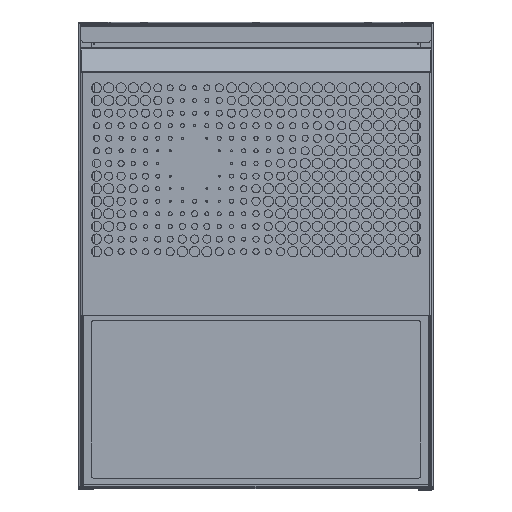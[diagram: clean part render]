
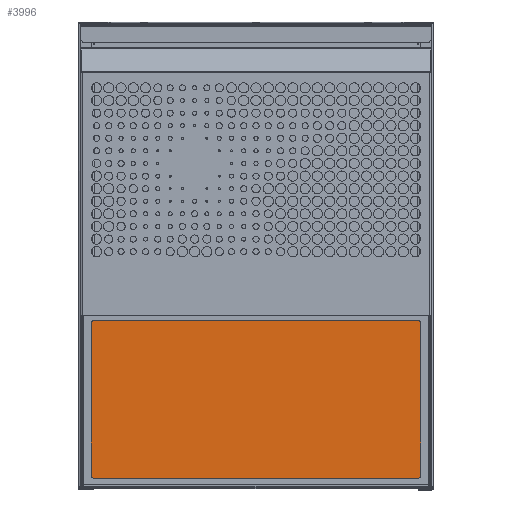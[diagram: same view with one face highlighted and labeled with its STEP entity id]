
A CAD part, top view. The second image highlights one B-rep face of the part: STEP entity #3996.
In plain terms, the highlighted planar face has unit normal (0, 0, 1).
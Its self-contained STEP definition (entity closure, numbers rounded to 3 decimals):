
#955 = LINE ( 'NONE', #28475, #4628 ) ;
#3996 = ADVANCED_FACE ( 'NONE', ( #24805 ), #33578, .T. ) ;
#4628 = VECTOR ( 'NONE', #5933, 1000. ) ;
#4915 = VERTEX_POINT ( 'NONE', #42805 ) ;
#5933 = DIRECTION ( 'NONE',  ( 1., 0., 0. ) ) ;
#9612 = VERTEX_POINT ( 'NONE', #19299 ) ;
#11621 = DIRECTION ( 'NONE',  ( 1., 0., 0. ) ) ;
#14248 = EDGE_CURVE ( 'NONE', #9612, #48763, #54512, .T. ) ;
#14470 = CARTESIAN_POINT ( 'NONE',  ( 170., 3.929, 118.603 ) ) ;
#16248 = CARTESIAN_POINT ( 'NONE',  ( -170., 195.929, 118.603 ) ) ;
#16915 = ORIENTED_EDGE ( 'NONE', *, *, #45842, .T. ) ;
#17608 = ORIENTED_EDGE ( 'NONE', *, *, #14248, .T. ) ;
#18035 = LINE ( 'NONE', #35899, #28047 ) ;
#19299 = CARTESIAN_POINT ( 'NONE',  ( 170., 195.929, 118.603 ) ) ;
#23163 = DIRECTION ( 'NONE',  ( -1., 0., 0. ) ) ;
#23259 = DIRECTION ( 'NONE',  ( 0., 1., 0. ) ) ;
#23280 = ORIENTED_EDGE ( 'NONE', *, *, #29392, .T. ) ;
#24805 = FACE_OUTER_BOUND ( 'NONE', #41673, .T. ) ;
#25952 = DIRECTION ( 'NONE',  ( 0., -1., 0. ) ) ;
#27531 = VECTOR ( 'NONE', #23163, 1000. ) ;
#28047 = VECTOR ( 'NONE', #25952, 1000. ) ;
#28475 = CARTESIAN_POINT ( 'NONE',  ( -170., 3.929, 118.603 ) ) ;
#29392 = EDGE_CURVE ( 'NONE', #50320, #4915, #955, .T. ) ;
#31866 = EDGE_CURVE ( 'NONE', #4915, #9612, #41975, .T. ) ;
#33155 = CARTESIAN_POINT ( 'NONE',  ( -170., 3.929, 118.603 ) ) ;
#33578 = PLANE ( 'NONE',  #47774 ) ;
#35784 = CARTESIAN_POINT ( 'NONE',  ( -170., 195.929, 118.603 ) ) ;
#35899 = CARTESIAN_POINT ( 'NONE',  ( -170., 3.929, 118.603 ) ) ;
#41673 = EDGE_LOOP ( 'NONE', ( #43540, #17608, #16915, #23280 ) ) ;
#41975 = LINE ( 'NONE', #14470, #45183 ) ;
#42805 = CARTESIAN_POINT ( 'NONE',  ( 170., 3.929, 118.603 ) ) ;
#43540 = ORIENTED_EDGE ( 'NONE', *, *, #31866, .T. ) ;
#45183 = VECTOR ( 'NONE', #23259, 1000. ) ;
#45842 = EDGE_CURVE ( 'NONE', #48763, #50320, #18035, .T. ) ;
#47774 = AXIS2_PLACEMENT_3D ( 'NONE', #51763, #51164, #11621 ) ;
#48763 = VERTEX_POINT ( 'NONE', #16248 ) ;
#50320 = VERTEX_POINT ( 'NONE', #33155 ) ;
#51164 = DIRECTION ( 'NONE',  ( 0., 0., 1. ) ) ;
#51763 = CARTESIAN_POINT ( 'NONE',  ( -170., 3.929, 118.603 ) ) ;
#54512 = LINE ( 'NONE', #35784, #27531 ) ;
